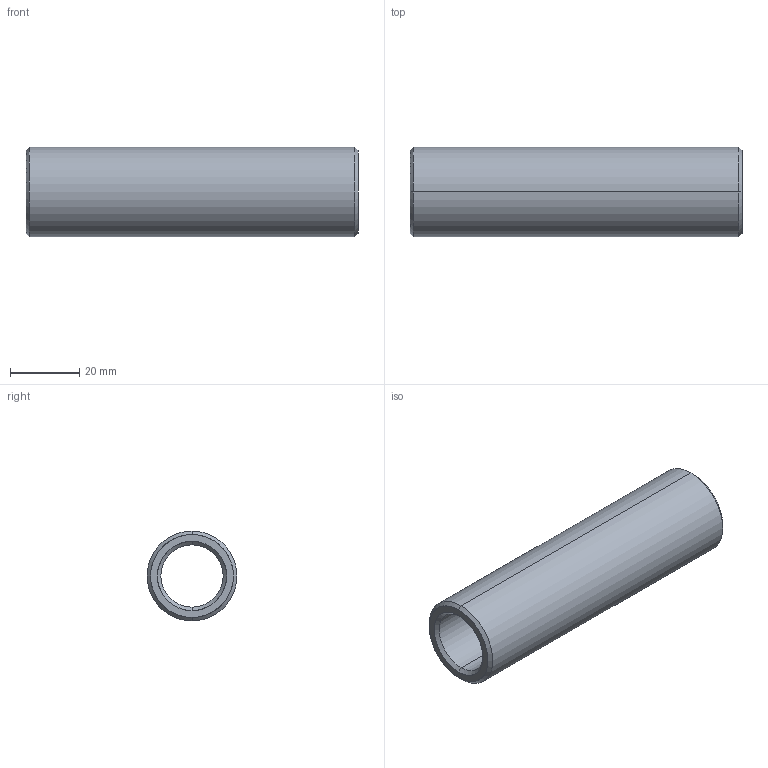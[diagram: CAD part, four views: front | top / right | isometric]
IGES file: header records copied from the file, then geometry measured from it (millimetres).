
Start section: START RECORD GO HERE.
Global section: file name: 352-18X96.igs; native system: DASSAULT SYSTEMES CATIA V5 R20 - www.3ds.com; preprocessor: CATIA Version 5 Release 20 ; author: Utente; organization: NB04-ASUS; date: 20210412.173656; units: millimetre
Bounding box: 96 x 26 x 26 mm (x, y, z)
Surface area: 13669.1 mm2 (no closed solid volume)
Topology: 0 solids, 0 shells, 14 faces, 88 edges, 88 vertices
Faces by surface type: revolution 12, plane 2
